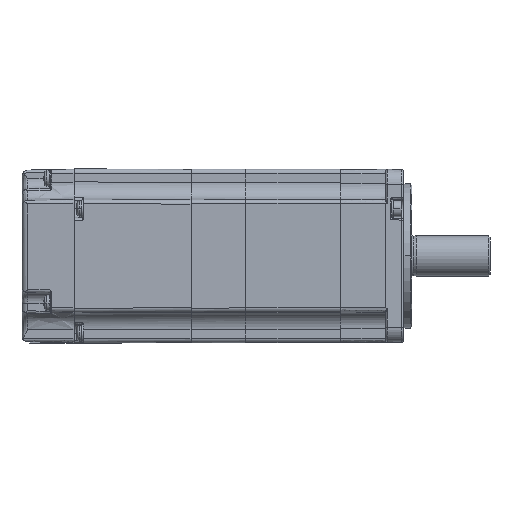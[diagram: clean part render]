
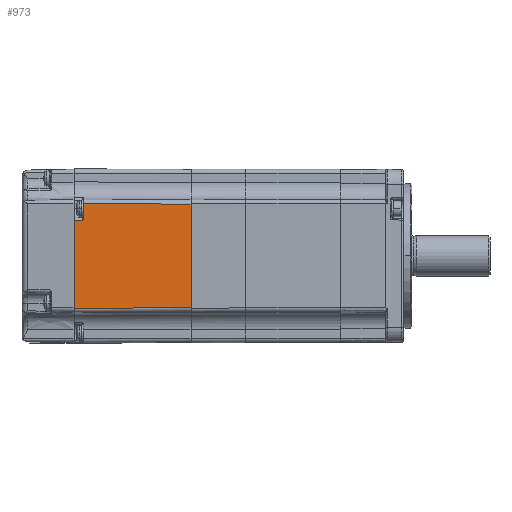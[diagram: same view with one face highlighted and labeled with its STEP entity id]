
A CAD part, front view. The second image highlights one B-rep face of the part: STEP entity #973.
In plain terms, the highlighted planar face has unit normal (0.005, -1, 0).
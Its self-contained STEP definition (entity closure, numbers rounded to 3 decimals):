
#973=ADVANCED_FACE('',(#7546),#7545,.F.);
#7545=PLANE('',#19237);
#7546=FACE_OUTER_BOUND('',#19238,.T.);
#19234=CARTESIAN_POINT('',(-69.45,-29.915,-21.757));
#19235=DIRECTION('',(-0.005,1.,0.));
#19236=DIRECTION('',(-1.,-0.005,0.));
#19237=AXIS2_PLACEMENT_3D('',#19234,#19235,#19236);
#19238=EDGE_LOOP('',(#27574,#27575,#27576,#27577,#27578,#27579,#27580));
#27574=ORIENTED_EDGE('',*,*,#32097,.F.);
#27575=ORIENTED_EDGE('',*,*,#31660,.T.);
#27576=ORIENTED_EDGE('',*,*,#31391,.F.);
#27577=ORIENTED_EDGE('',*,*,#31665,.T.);
#27578=ORIENTED_EDGE('',*,*,#31093,.F.);
#27579=ORIENTED_EDGE('',*,*,#31346,.T.);
#27580=ORIENTED_EDGE('',*,*,#31695,.T.);
#31093=EDGE_CURVE('',#39235,#39242,#39243,.T.);
#31346=EDGE_CURVE('',#39235,#40943,#40950,.T.);
#31391=EDGE_CURVE('',#41258,#41265,#41266,.T.);
#31660=EDGE_CURVE('',#43058,#41265,#43071,.T.);
#31665=EDGE_CURVE('',#41258,#39242,#43103,.T.);
#31695=EDGE_CURVE('',#40943,#43291,#43299,.T.);
#32097=EDGE_CURVE('',#43058,#43291,#45951,.T.);
#39235=VERTEX_POINT('',#56841);
#39242=VERTEX_POINT('',#56845);
#39243=LINE('',#56846,#56847);
#40943=VERTEX_POINT('',#58112);
#40950=(BOUNDED_CURVE() B_SPLINE_CURVE(3,(#58118,#58119,#58120,#58121,#58122,#58123),.UNSPECIFIED.,.F.,.F.) B_SPLINE_CURVE_WITH_KNOTS((4,2,4),(0.,0.,0.001),.UNSPECIFIED.) CURVE() GEOMETRIC_REPRESENTATION_ITEM() RATIONAL_B_SPLINE_CURVE((1.,1.,1.,1.,1.,1.)) REPRESENTATION_ITEM('') );
#41258=VERTEX_POINT('',#58299);
#41265=VERTEX_POINT('',#58303);
#41266=LINE('',#58304,#58305);
#43058=VERTEX_POINT('',#59483);
#43071=LINE('',#59490,#59491);
#43103=LINE('',#59507,#59508);
#43291=VERTEX_POINT('',#59632);
#43299=LINE('',#59637,#59638);
#45951=LINE('',#61367,#61368);
#56841=CARTESIAN_POINT('',(-110.8,-30.132,12.821));
#56845=CARTESIAN_POINT('',(-110.8,-30.132,18.116));
#56846=CARTESIAN_POINT('',(-110.8,-30.132,12.821));
#56847=VECTOR('',#56848,5.294);
#56848=DIRECTION('',(0.,0.,1.));
#58112=CARTESIAN_POINT('',(-111.001,-30.133,12.156));
#58118=CARTESIAN_POINT('',(-110.8,-30.132,12.821));
#58119=CARTESIAN_POINT('',(-110.8,-30.132,12.704));
#58120=CARTESIAN_POINT('',(-110.829,-30.132,12.59));
#58121=CARTESIAN_POINT('',(-110.905,-30.132,12.369));
#58122=CARTESIAN_POINT('',(-110.954,-30.133,12.262));
#58123=CARTESIAN_POINT('',(-111.001,-30.133,12.156));
#58299=CARTESIAN_POINT('',(-73.5,-29.937,17.92));
#58303=CARTESIAN_POINT('',(-73.5,-29.937,-17.92));
#58304=CARTESIAN_POINT('',(-73.5,-29.937,17.92));
#58305=VECTOR('',#58306,35.841);
#58306=DIRECTION('',(0.,0.,-1.));
#59483=CARTESIAN_POINT('',(-114.,-30.149,-18.133));
#59490=CARTESIAN_POINT('',(-114.,-30.149,-18.133));
#59491=VECTOR('',#59492,40.501);
#59492=DIRECTION('',(1.,0.005,0.005));
#59507=CARTESIAN_POINT('',(-73.5,-29.937,17.92));
#59508=VECTOR('',#59509,37.301);
#59509=DIRECTION('',(-1.,-0.005,0.005));
#59632=CARTESIAN_POINT('',(-114.,-30.149,12.104));
#59637=CARTESIAN_POINT('',(-111.001,-30.133,12.156));
#59638=VECTOR('',#59639,2.999);
#59639=DIRECTION('',(-1.,-0.005,-0.017));
#61367=CARTESIAN_POINT('',(-114.,-30.149,-18.133));
#61368=VECTOR('',#61369,30.237);
#61369=DIRECTION('',(0.,0.,1.));
